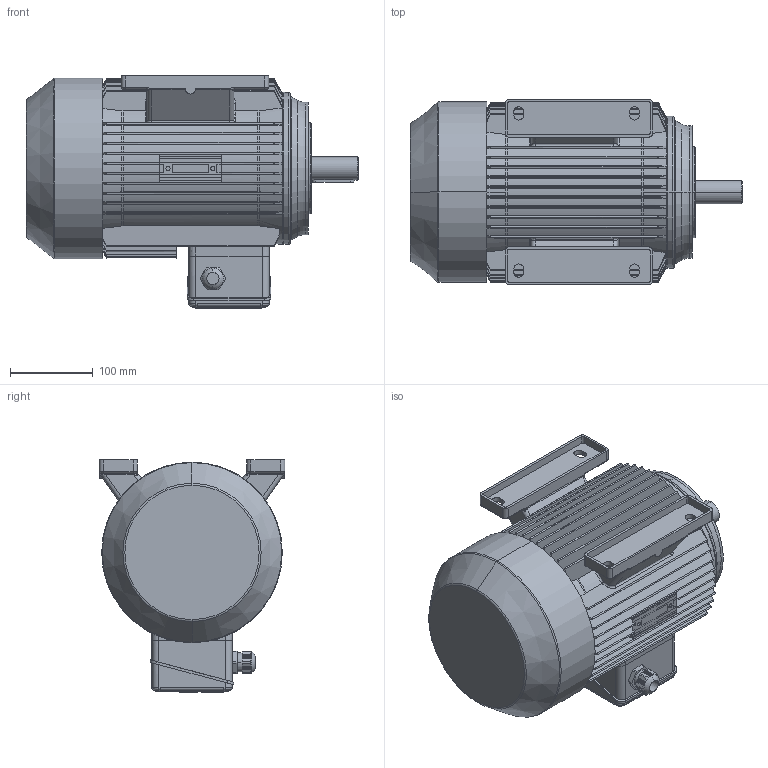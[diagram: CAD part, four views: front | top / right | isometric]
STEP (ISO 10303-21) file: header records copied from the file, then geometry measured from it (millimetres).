
FILE_DESCRIPTION (( 'STEP AP214' ), '1' );
FILE_NAME ('MAP112M2A IM2141 FT130.STEP', '2020-12-23T13:02:39', ( '' ), ( '' ), 'SwSTEP 2.0', 'SolidWorks 2018', '' );
FILE_SCHEMA (( 'AUTOMOTIVE_DESIGN' ));
Length unit declared in the file: millimetre
Products named in the file (1): MAP112M2A IM2141 FT130
Bounding box: 401.5 x 224.5 x 281 mm (x, y, z)
Volume: 10971821.6 mm3; surface area: 694374.1 mm2
Topology: 3 solids, 8 shells, 1206 faces, 3221 edges, 2075 vertices
Faces by surface type: plane 538, cylinder 284, cone 153, torus 118, bspline 111, sphere 2
Entity records: 46916 total; most frequent: CARTESIAN_POINT 18464, ORIENTED_EDGE 6430, DIRECTION 5241, EDGE_CURVE 3215, VERTEX_POINT 2075, AXIS2_PLACEMENT_3D 1843, LINE 1555, VECTOR 1555
